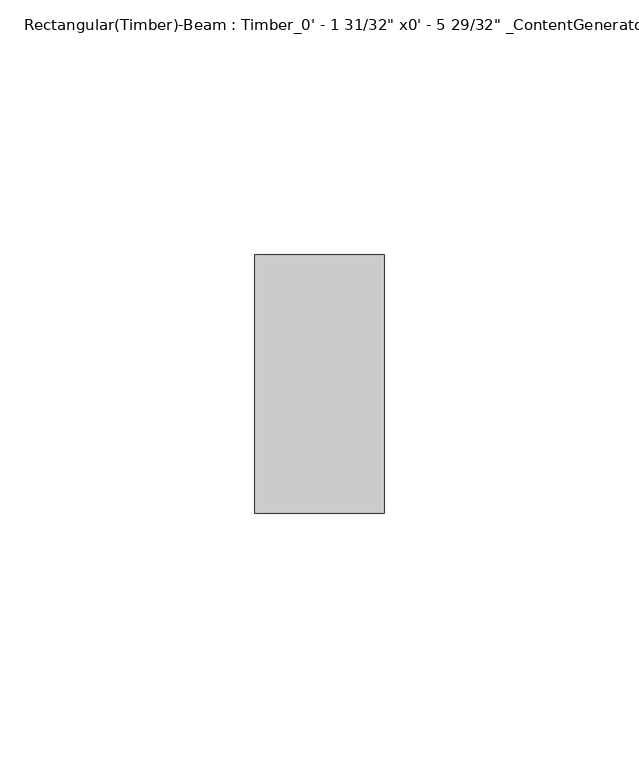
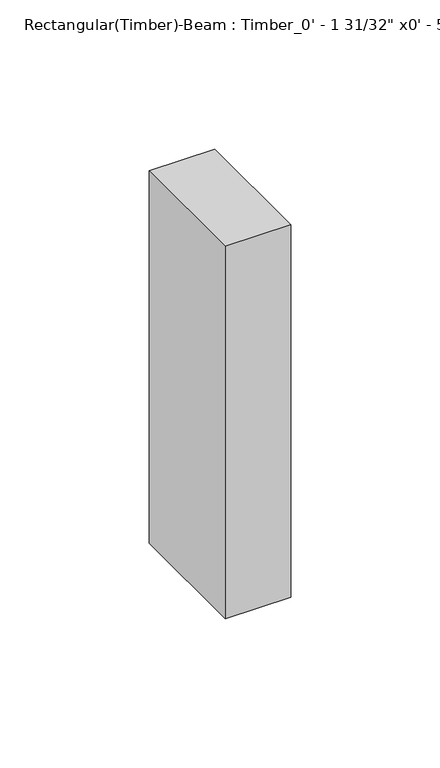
"""IFC4 building model written with IfcOpenShell, lengths in millimetres: beam geometry."""

import ifcopenshell
import ifcopenshell.guid

model = None  # the IFC model being written
_history = None  # IfcOwnerHistory: only IFC2X3 demands one
_inside = {}  # id of a spatial element -> (the spatial element, [elements in it])
_under = {}  # id of a project, library or spatial element -> (it, [spatial elements below it])
_declared = {}  # id of a project -> (the project, [libraries it declares])
_typed = {}  # id of a type object -> (the type object, [elements of that type])
_made_of = {}  # id of a material, layer set ... -> (it, [elements and type objects made of it])


def new_model(schema):
    """Start an empty IFC model of exactly this schema.

    Asked for "IFC4X3", IfcOpenShell would pick the latest addendum, in which some entities
    have other attributes; the version numbers below select the first issue.
    IFC2X3 requires an IfcOwnerHistory on every rooted entity: one is made here for all.
    """
    global model, _history
    if schema == "IFC4X3":
        model = ifcopenshell.file(schema_version=(4, 3, 0, 0))
    else:
        model = ifcopenshell.file(schema=schema)
    _inside.clear()
    _under.clear()
    _declared.clear()
    _typed.clear()
    _made_of.clear()
    _history = None
    if model.schema == "IFC2X3":
        org = make("IfcOrganization", Name="unknown")
        user = make(
            "IfcPersonAndOrganization",
            ThePerson=make("IfcPerson", FamilyName="unknown"),
            TheOrganization=org,
        )
        app = make(
            "IfcApplication",
            ApplicationDeveloper=org,
            Version="unknown",
            ApplicationFullName="unknown",
            ApplicationIdentifier="unknown",
        )
        _history = make(
            "IfcOwnerHistory",
            OwningUser=user,
            OwningApplication=app,
            ChangeAction="ADDED",
            CreationDate=0,
        )
    return model


def make(cls, **values):
    """One entity of the class cls with the attributes given. An attribute that is None is left unset."""
    return model.create_entity(
        cls, **{name: value for name, value in values.items() if value is not None}
    )


def rooted(cls, **values):
    """An entity with a GlobalId (a new one), such as an element, a storey or a relation."""
    return make(cls, GlobalId=ifcopenshell.guid.new(), OwnerHistory=_history, **values)


def si_unit(unit_type, name, prefix=None):
    """IfcSIUnit, for example si_unit("LENGTHUNIT", "METRE", prefix="MILLI")."""
    return make("IfcSIUnit", UnitType=unit_type, Prefix=prefix, Name=name)


def assignment(units):
    """IfcUnitAssignment: the units of a project."""
    return None if units is None else make("IfcUnitAssignment", Units=units)


def point(xyz):
    """IfcCartesianPoint."""
    return None if xyz is None else make("IfcCartesianPoint", Coordinates=xyz)


def direction(xyz):
    """IfcDirection."""
    return None if xyz is None else make("IfcDirection", DirectionRatios=xyz)


def frame(location, z_axis=None, x_axis=None):
    """IfcAxis2Placement3D, a coordinate frame: its origin and axes. An axis left out is left unset."""
    return make(
        "IfcAxis2Placement3D",
        Location=point(location),
        Axis=direction(z_axis),
        RefDirection=direction(x_axis),
    )


def origin():
    """The frame at (0, 0, 0) with its axes left unset."""
    return frame((0.0, 0.0, 0.0))


def place(relative_to, where):
    """IfcLocalPlacement: puts the frame where relative to a parent placement (None: the world)."""
    return make(
        "IfcLocalPlacement", PlacementRelTo=relative_to, RelativePlacement=where
    )


def context(
    kind, dimensions, precision=None, world=None, true_north=None, identifier=None
):
    """IfcGeometricRepresentationContext, for example the 3D "Model" context."""
    return make(
        "IfcGeometricRepresentationContext",
        ContextIdentifier=identifier,
        ContextType=kind,
        CoordinateSpaceDimension=dimensions,
        Precision=precision,
        WorldCoordinateSystem=world,
        TrueNorth=true_north,
    )


def project(units=None, contexts=None):
    """IfcProject with its units and contexts."""
    return rooted(
        "IfcProject",
        Name="project",
        RepresentationContexts=contexts,
        UnitsInContext=assignment(units),
    )


def spatial(cls, under=None, at=None, **own):
    """A site, building, storey or space (cls), placed at a placement, below another one or the project."""
    s = rooted(cls, ObjectPlacement=at, **own)
    if under is not None:
        _under.setdefault(under.id(), (under, []))[1].append(s)
    return s


def polyline(points):
    """IfcPolyline through the points."""
    return make("IfcPolyline", Points=[point(p) for p in points])


def outline(outer, holes=None, kind="AREA"):
    """IfcArbitraryClosedProfileDef: a profile drawn as a closed curve; with holes, ...WithVoids."""
    if holes is None:
        return make("IfcArbitraryClosedProfileDef", ProfileType=kind, OuterCurve=outer)
    return make(
        "IfcArbitraryProfileDefWithVoids",
        ProfileType=kind,
        OuterCurve=outer,
        InnerCurves=holes,
    )


def extrude(swept, where, along, depth):
    """IfcExtrudedAreaSolid: the profile swept, set in the frame where, extruded along a direction by depth."""
    return make(
        "IfcExtrudedAreaSolid",
        SweptArea=swept,
        Position=where,
        ExtrudedDirection=direction(along),
        Depth=depth,
    )


def shape(context_of_items, identifier, shape_type, items):
    """IfcShapeRepresentation: the items that make up one representation, for example the "Body"."""
    return make(
        "IfcShapeRepresentation",
        ContextOfItems=context_of_items,
        RepresentationIdentifier=identifier,
        RepresentationType=shape_type,
        Items=items,
    )


def source(mapping_origin, context_of_items, identifier, shape_type, items):
    """IfcRepresentationMap: a shape defined once, which mapped items show again and again."""
    return make(
        "IfcRepresentationMap",
        MappingOrigin=mapping_origin,
        MappedRepresentation=shape(context_of_items, identifier, shape_type, items),
    )


def transform(
    local_origin,
    x_axis=None,
    y_axis=None,
    z_axis=None,
    scale=None,
    scale2=None,
    scale3=None,
    uniform=True,
):
    """IfcCartesianTransformationOperator3D, or its non-uniform kind. x_axis, y_axis, z_axis: its Axis1, 2, 3."""
    if uniform:
        return make(
            "IfcCartesianTransformationOperator3D",
            Axis1=direction(x_axis),
            Axis2=direction(y_axis),
            LocalOrigin=point(local_origin),
            Scale=scale,
            Axis3=direction(z_axis),
        )
    return make(
        "IfcCartesianTransformationOperator3DnonUniform",
        Axis1=direction(x_axis),
        Axis2=direction(y_axis),
        LocalOrigin=point(local_origin),
        Scale=scale,
        Axis3=direction(z_axis),
        Scale2=scale2,
        Scale3=scale3,
    )


def mapped(mapping_source, mapping_target):
    """IfcMappedItem: shows the shape of a source again, moved by a transform."""
    return make(
        "IfcMappedItem", MappingSource=mapping_source, MappingTarget=mapping_target
    )


def made_of(thing, what):
    """Note that an element or type object is made of a material, layer set ...; save() writes the relation."""
    if what is not None:
        _made_of.setdefault(what.id(), (what, []))[1].append(thing)
    return thing


def element(
    cls,
    number,
    at=None,
    inside=None,
    cuts=None,
    type_object=None,
    material=None,
    context=None,
    identifier="Body",
    shape_type=None,
    held_by="IfcProductDefinitionShape",
    body=None,
    shapes=None,
    **own,
):
    """One element of the class cls, such as IfcWall. Its Tag is "e" and its number.

    at: its placement. inside: the storey or other place that contains it. cuts: it is an
    opening in that element (IfcRelVoidsElement). A single representation is given by context,
    identifier, shape_type and body (its items); several are given by shapes. held_by: the class
    of the entity that holds the representations. save() writes the other relations.
    """
    e = rooted(cls, Tag="e%d" % number, ObjectPlacement=at, **own)
    if body is not None:
        shapes = [shape(context, identifier, shape_type, body)]
    if shapes is not None:
        e.Representation = make(held_by, Representations=shapes)
    if inside is not None:
        _inside.setdefault(inside.id(), (inside, []))[1].append(e)
    if cuts is not None:
        rooted(
            "IfcRelVoidsElement", RelatingBuildingElement=cuts, RelatedOpeningElement=e
        )
    if type_object is not None:
        _typed.setdefault(type_object.id(), (type_object, []))[1].append(e)
    return made_of(e, material)


def aggregate(whole, parts):
    """IfcRelAggregates: a whole, such as a stair, and the parts it consists of."""
    return rooted("IfcRelAggregates", RelatingObject=whole, RelatedObjects=parts)


def save(model, path):
    """Write the relations noted so far, then the file.

    IfcRelAggregates (storeys below a building ...), IfcRelContainedInSpatialStructure (elements
    in a storey), IfcRelDefinesByType, IfcRelAssociatesMaterial and IfcRelDeclares: one each for
    every whole, place, type object, material and project.
    """
    for whole, parts in _under.values():
        aggregate(whole, parts)
    for where, things in _inside.values():
        rooted(
            "IfcRelContainedInSpatialStructure",
            RelatedElements=things,
            RelatingStructure=where,
        )
    for kind, things in _typed.values():
        rooted("IfcRelDefinesByType", RelatedObjects=things, RelatingType=kind)
    for what, things in _made_of.values():
        rooted("IfcRelAssociatesMaterial", RelatedObjects=things, RelatingMaterial=what)
    for by, libraries in _declared.values():
        rooted("IfcRelDeclares", RelatingContext=by, RelatedDefinitions=libraries)
    model.write(path)


def beam_103141cb(model_context):
    return source(origin(), model_context, "Body", "SweptSolid", [
        extrude(outline(polyline([(25.4099994, 25.4), (25.4099994, -25.4), (-0.01, -25.4), (-0.01, 25.4), (25.4099994, 25.4)])), frame((0.0, 0.0, -76.2), z_axis=(0.0, 0.0, 1.0), x_axis=(1.0, 0.0, 0.0)), (0.0, 0.0, 1.0), 152.4),
    ])


if __name__ == "__main__":
    model = new_model("IFC4")
    model_context = context("Model", 3, world=origin())
    ifc_project = project(units=[si_unit("LENGTHUNIT", "METRE", prefix="MILLI")], contexts=[model_context])
    site = spatial("IfcSite", under=ifc_project)
    building = spatial("IfcBuilding", under=site)
    placement = place(None, origin())
    beam_shape = beam_103141cb(model_context)
    element("IfcBeam", 1, ObjectType="Rectangular(Timber)-Beam : Timber_0' - 1 31/32\" x0' - 5 29/32\" _ContentGenerator", at=placement, inside=building, context=model_context, shape_type="MappedRepresentation", body=[
        mapped(beam_shape, transform((0.0, 0.0, 0.0), x_axis=(1.0, 0.0, 0.0), y_axis=(0.0, 1.0, 0.0), z_axis=(0.0, 0.0, 1.0))),
    ])
    save(model, "model.ifc")
